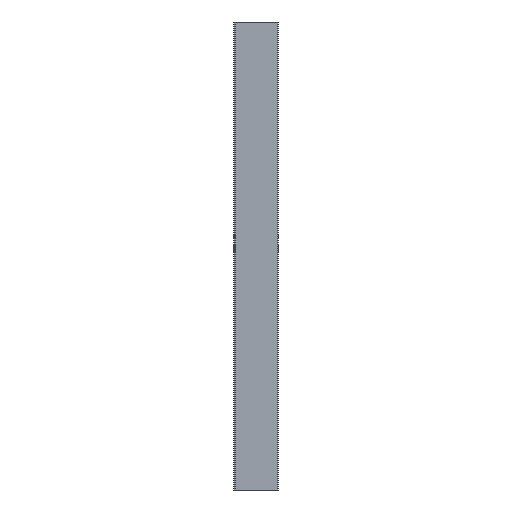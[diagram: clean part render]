
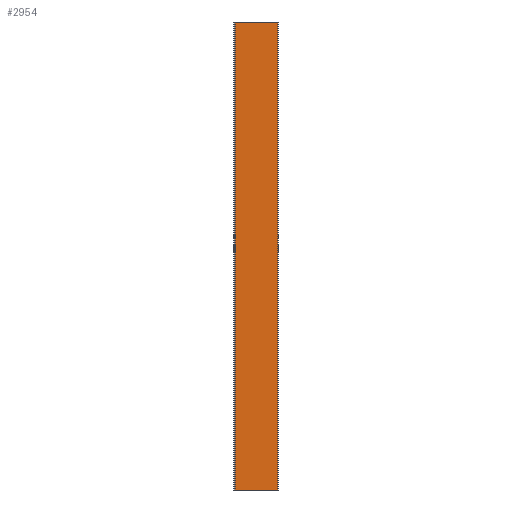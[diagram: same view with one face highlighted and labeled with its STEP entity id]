
A CAD part, left-side view. The second image highlights one B-rep face of the part: STEP entity #2954.
In plain terms, the highlighted planar face has unit normal (-1, 0, 0).
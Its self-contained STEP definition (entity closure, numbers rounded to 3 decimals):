
#183=PLANE('',#3213);
#598=ORIENTED_EDGE('',*,*,#1480,.T.);
#599=ORIENTED_EDGE('',*,*,#1481,.F.);
#600=ORIENTED_EDGE('',*,*,#1455,.F.);
#601=ORIENTED_EDGE('',*,*,#1479,.T.);
#1455=EDGE_CURVE('',#1876,#1877,#2101,.T.);
#1479=EDGE_CURVE('',#1876,#1898,#2111,.T.);
#1480=EDGE_CURVE('',#1898,#1899,#2112,.T.);
#1481=EDGE_CURVE('',#1877,#1899,#2113,.T.);
#1876=VERTEX_POINT('',#4905);
#1877=VERTEX_POINT('',#4907);
#1898=VERTEX_POINT('',#4953);
#1899=VERTEX_POINT('',#4957);
#2101=LINE('',#4906,#2339);
#2111=LINE('',#4954,#2349);
#2112=LINE('',#4956,#2350);
#2113=LINE('',#4958,#2351);
#2339=VECTOR('',#3716,1000.);
#2349=VECTOR('',#3758,1000.);
#2350=VECTOR('',#3761,1000.);
#2351=VECTOR('',#3762,1000.);
#2542=EDGE_LOOP('',(#598,#599,#600,#601));
#2698=FACE_BOUND('',#2542,.T.);
#2954=ADVANCED_FACE('',(#2698),#183,.F.);
#3213=AXIS2_PLACEMENT_3D('',#4955,#3759,#3760);
#3716=DIRECTION('',(0.,-1.,0.));
#3758=DIRECTION('',(0.,0.,-1.));
#3759=DIRECTION('',(1.,0.,0.));
#3760=DIRECTION('',(0.,1.,0.));
#3761=DIRECTION('',(0.,-1.,0.));
#3762=DIRECTION('',(0.,0.,-1.));
#4905=CARTESIAN_POINT('',(-14.,39.3,256.5));
#4906=CARTESIAN_POINT('',(-14.,-7.5,256.5));
#4907=CARTESIAN_POINT('',(-14.,-7.5,256.5));
#4953=CARTESIAN_POINT('',(-14.,39.3,-256.5));
#4954=CARTESIAN_POINT('',(-14.,39.3,256.5));
#4955=CARTESIAN_POINT('',(-14.,-7.5,256.5));
#4956=CARTESIAN_POINT('',(-14.,-7.5,-256.5));
#4957=CARTESIAN_POINT('',(-14.,-7.5,-256.5));
#4958=CARTESIAN_POINT('',(-14.,-7.5,256.5));
